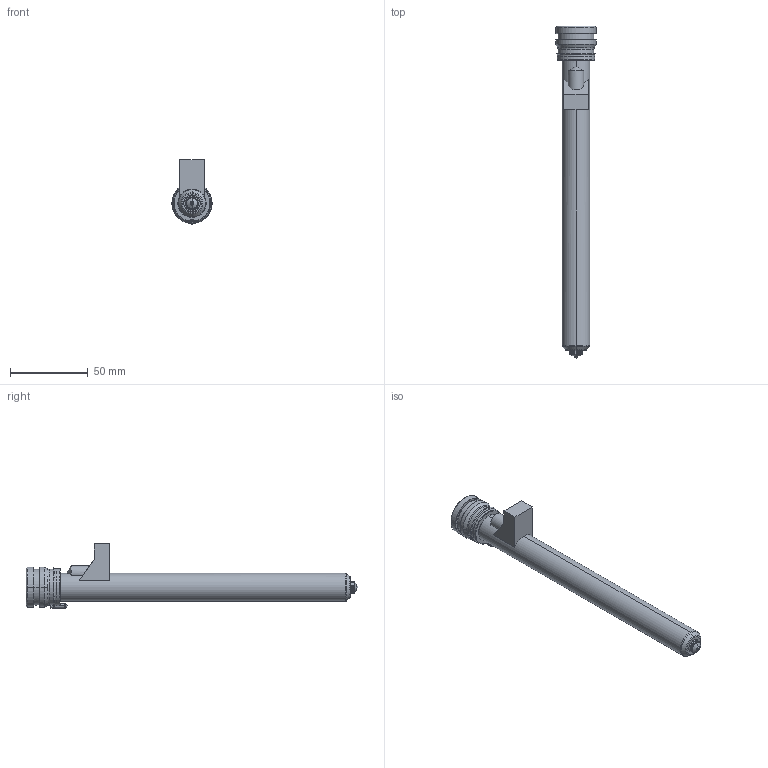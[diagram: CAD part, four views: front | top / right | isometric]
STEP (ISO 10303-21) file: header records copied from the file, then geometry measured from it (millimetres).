
FILE_DESCRIPTION((''),'2;1');
FILE_NAME('MPN-08-24-TS8-196-M','2026-02-05T13:25:28',('UPTIO'),('Thermoplay S.p.A.'),'CREO PARAMETRIC BY PTC INC, 2023494','CREO PARAMETRIC BY PTC INC, 2023494','');
FILE_SCHEMA(('CONFIG_CONTROL_DESIGN','SHAPE_APPEARANCE_LAYERS_GROUPS'));
Length unit declared in the file: millimetre
Products named in the file (1): MPN-08-24-TS8-196-M
Bounding box: 26 x 214 x 41.5 mm (x, y, z)
Volume: 39848.7 mm3; surface area: 53504 mm2
Topology: 2 solids, 5 shells, 532 faces, 1371 edges, 843 vertices
Faces by surface type: cylinder 172, plane 146, bspline 77, torus 62, cone 58, sphere 11, extrusion 6
Entity records: 27988 total; most frequent: CARTESIAN_POINT 12349, ORIENTED_EDGE 2720, DIRECTION 2456, EDGE_CURVE 1360, AXIS2_PLACEMENT_3D 960, VERTEX_POINT 843, EDGE_LOOP 561, VECTOR 536
